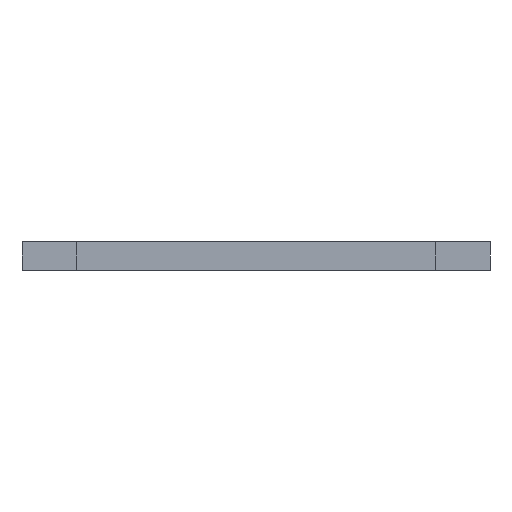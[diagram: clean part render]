
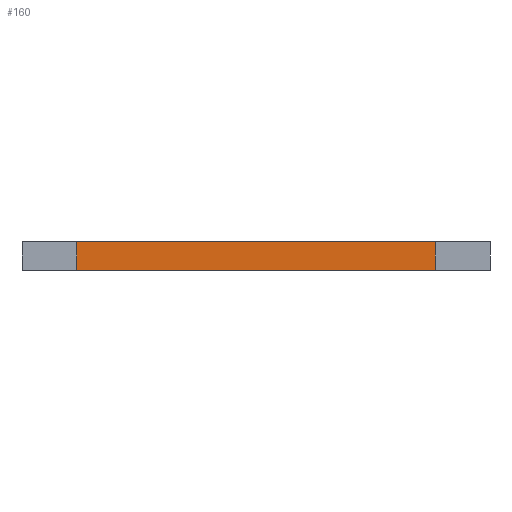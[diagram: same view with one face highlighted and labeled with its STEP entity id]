
A CAD part, front view. The second image highlights one B-rep face of the part: STEP entity #160.
In plain terms, the highlighted planar face has unit normal (0, -1, 0).
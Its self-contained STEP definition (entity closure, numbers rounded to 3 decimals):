
#5 = ORIENTED_EDGE ( 'NONE', *, *, #1301, .T. ) ;
#59 = LINE ( 'NONE', #681, #1413 ) ;
#118 = EDGE_CURVE ( 'NONE', #329, #740, #651, .T. ) ;
#151 = DIRECTION ( 'NONE',  ( 1., 0., 0. ) ) ;
#155 = ORIENTED_EDGE ( 'NONE', *, *, #118, .F. ) ;
#160 = ADVANCED_FACE ( 'NONE', ( #1481 ), #525, .F. ) ;
#172 = ORIENTED_EDGE ( 'NONE', *, *, #831, .T. ) ;
#254 = CARTESIAN_POINT ( 'NONE',  ( -62.5, -104.4, 10. ) ) ;
#329 = VERTEX_POINT ( 'NONE', #701 ) ;
#525 = PLANE ( 'NONE',  #822 ) ;
#579 = CARTESIAN_POINT ( 'NONE',  ( 62.5, -104.4, 0. ) ) ;
#651 = LINE ( 'NONE', #1469, #1140 ) ;
#681 = CARTESIAN_POINT ( 'NONE',  ( -62.5, -104.4, 10. ) ) ;
#701 = CARTESIAN_POINT ( 'NONE',  ( 62.5, -104.4, 10. ) ) ;
#740 = VERTEX_POINT ( 'NONE', #579 ) ;
#788 = DIRECTION ( 'NONE',  ( -1., 0., 0. ) ) ;
#822 = AXIS2_PLACEMENT_3D ( 'NONE', #1058, #929, #788 ) ;
#831 = EDGE_CURVE ( 'NONE', #1109, #740, #1078, .T. ) ;
#853 = DIRECTION ( 'NONE',  ( 0., 0., -1. ) ) ;
#879 = EDGE_LOOP ( 'NONE', ( #172, #155, #1203, #5 ) ) ;
#911 = DIRECTION ( 'NONE',  ( 0., 0., -1. ) ) ;
#929 = DIRECTION ( 'NONE',  ( 0., 1., 0. ) ) ;
#986 = VERTEX_POINT ( 'NONE', #254 ) ;
#988 = CARTESIAN_POINT ( 'NONE',  ( -62.5, -104.4, 0. ) ) ;
#1058 = CARTESIAN_POINT ( 'NONE',  ( -62.5, -104.4, 10. ) ) ;
#1078 = LINE ( 'NONE', #988, #1417 ) ;
#1109 = VERTEX_POINT ( 'NONE', #1618 ) ;
#1140 = VECTOR ( 'NONE', #911, 1000. ) ;
#1193 = EDGE_CURVE ( 'NONE', #986, #329, #59, .T. ) ;
#1203 = ORIENTED_EDGE ( 'NONE', *, *, #1193, .F. ) ;
#1301 = EDGE_CURVE ( 'NONE', #986, #1109, #1672, .T. ) ;
#1413 = VECTOR ( 'NONE', #151, 1000. ) ;
#1416 = CARTESIAN_POINT ( 'NONE',  ( -62.5, -104.4, 10. ) ) ;
#1417 = VECTOR ( 'NONE', #1534, 1000. ) ;
#1469 = CARTESIAN_POINT ( 'NONE',  ( 62.5, -104.4, 10. ) ) ;
#1481 = FACE_OUTER_BOUND ( 'NONE', #879, .T. ) ;
#1534 = DIRECTION ( 'NONE',  ( 1., 0., 0. ) ) ;
#1543 = VECTOR ( 'NONE', #853, 1000. ) ;
#1618 = CARTESIAN_POINT ( 'NONE',  ( -62.5, -104.4, 0. ) ) ;
#1672 = LINE ( 'NONE', #1416, #1543 ) ;
